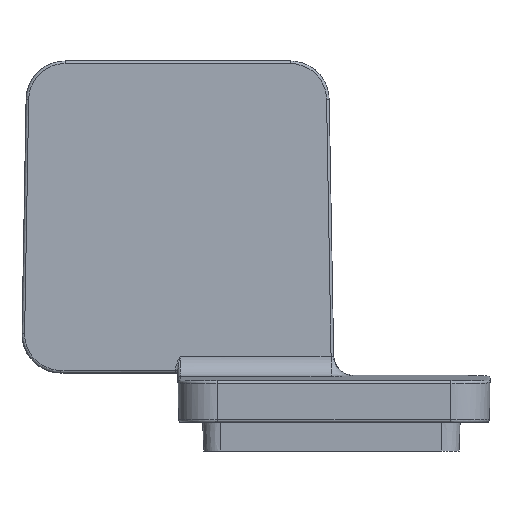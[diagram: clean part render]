
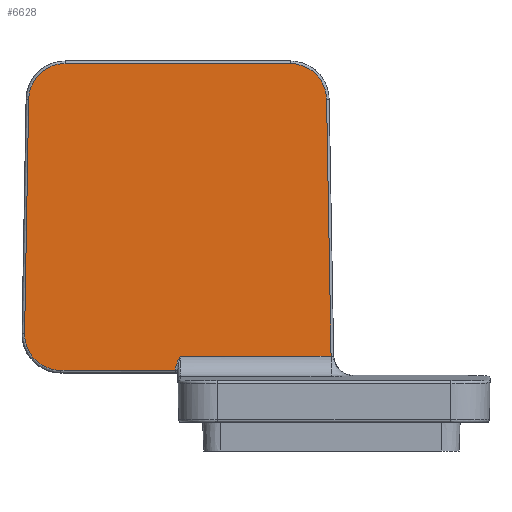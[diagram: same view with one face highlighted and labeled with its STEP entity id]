
A CAD part, front view. The second image highlights one B-rep face of the part: STEP entity #6628.
In plain terms, the highlighted planar face has unit normal (0, -1, 0.018).
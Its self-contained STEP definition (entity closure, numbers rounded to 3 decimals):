
#196=B_SPLINE_CURVE_WITH_KNOTS('',3,(#11234,#11235,#11236,#11237,#11238),
 .UNSPECIFIED.,.F.,.F.,(4,1,4),(0.,0.003,0.006),
 .UNSPECIFIED.);
#258=PLANE('',#8304);
#780=ELLIPSE('',#8305,14.002,14.);
#781=ELLIPSE('',#8306,14.002,14.);
#782=ELLIPSE('',#8307,14.002,14.);
#819=ORIENTED_EDGE('',*,*,#2779,.T.);
#820=ORIENTED_EDGE('',*,*,#2780,.T.);
#821=ORIENTED_EDGE('',*,*,#2771,.T.);
#822=ORIENTED_EDGE('',*,*,#2781,.T.);
#823=ORIENTED_EDGE('',*,*,#2782,.T.);
#824=ORIENTED_EDGE('',*,*,#2783,.T.);
#825=ORIENTED_EDGE('',*,*,#2784,.T.);
#826=ORIENTED_EDGE('',*,*,#2785,.T.);
#827=ORIENTED_EDGE('',*,*,#2786,.T.);
#2771=EDGE_CURVE('',#3751,#3752,#4382,.F.);
#2779=EDGE_CURVE('',#3759,#3760,#4388,.F.);
#2780=EDGE_CURVE('',#3760,#3751,#196,.T.);
#2781=EDGE_CURVE('',#3752,#3761,#4389,.F.);
#2782=EDGE_CURVE('',#3761,#3762,#780,.F.);
#2783=EDGE_CURVE('',#3762,#3763,#4390,.T.);
#2784=EDGE_CURVE('',#3763,#3764,#781,.F.);
#2785=EDGE_CURVE('',#3764,#3765,#4391,.T.);
#2786=EDGE_CURVE('',#3765,#3759,#782,.F.);
#3751=VERTEX_POINT('',#11214);
#3752=VERTEX_POINT('',#11215);
#3759=VERTEX_POINT('',#11232);
#3760=VERTEX_POINT('',#11233);
#3761=VERTEX_POINT('',#11240);
#3762=VERTEX_POINT('',#11242);
#3763=VERTEX_POINT('',#11244);
#3764=VERTEX_POINT('',#11246);
#3765=VERTEX_POINT('',#11248);
#4382=LINE('',#11213,#4912);
#4388=LINE('',#11231,#4918);
#4389=LINE('',#11239,#4919);
#4390=LINE('',#11243,#4920);
#4391=LINE('',#11247,#4921);
#4912=VECTOR('',#9097,1000.);
#4918=VECTOR('',#9111,1000.);
#4919=VECTOR('',#9112,1000.);
#4920=VECTOR('',#9115,1000.);
#4921=VECTOR('',#9118,1000.);
#5444=EDGE_LOOP('',(#819,#820,#821,#822,#823,#824,#825,#826,#827));
#5956=FACE_BOUND('',#5444,.T.);
#6628=ADVANCED_FACE('',(#5956),#258,.F.);
#8304=AXIS2_PLACEMENT_3D('',#11230,#9109,#9110);
#8305=AXIS2_PLACEMENT_3D('',#11241,#9113,#9114);
#8306=AXIS2_PLACEMENT_3D('',#11245,#9116,#9117);
#8307=AXIS2_PLACEMENT_3D('',#11249,#9119,#9120);
#9097=DIRECTION('',(-1.,0.,0.));
#9109=DIRECTION('',(0.,1.,-0.017));
#9110=DIRECTION('',(0.,0.017,1.));
#9111=DIRECTION('',(-1.,0.,0.));
#9112=DIRECTION('',(0.017,-0.017,-1.));
#9113=DIRECTION('',(0.,1.,-0.017));
#9114=DIRECTION('',(0.,0.017,1.));
#9115=DIRECTION('',(-1.,0.,0.));
#9116=DIRECTION('',(0.,1.,-0.017));
#9117=DIRECTION('',(0.,0.017,1.));
#9118=DIRECTION('',(-0.017,-0.017,-1.));
#9119=DIRECTION('',(0.,1.,-0.017));
#9120=DIRECTION('',(0.,-0.017,-1.));
#11213=CARTESIAN_POINT('',(151.,42.019,25.503));
#11214=CARTESIAN_POINT('',(-59.151,42.019,25.503));
#11215=CARTESIAN_POINT('',(-1.129,42.019,25.503));
#11230=CARTESIAN_POINT('',(151.,44.,139.));
#11231=CARTESIAN_POINT('',(151.,41.923,20.017));
#11232=CARTESIAN_POINT('',(-105.,41.923,20.017));
#11233=CARTESIAN_POINT('',(-61.053,41.923,20.017));
#11234=CARTESIAN_POINT('',(-61.053,41.923,20.017));
#11235=CARTESIAN_POINT('',(-61.031,41.94,21.001));
#11236=CARTESIAN_POINT('',(-60.488,41.973,22.892));
#11237=CARTESIAN_POINT('',(-59.6,42.004,24.628));
#11238=CARTESIAN_POINT('',(-59.151,42.019,25.503));
#11239=CARTESIAN_POINT('',(-3.063,43.953,136.312));
#11240=CARTESIAN_POINT('',(-2.853,43.743,124.262));
#11241=CARTESIAN_POINT('',(-16.851,43.738,124.017));
#11242=CARTESIAN_POINT('',(-16.851,43.983,138.017));
#11243=CARTESIAN_POINT('',(-103.431,43.983,138.017));
#11244=CARTESIAN_POINT('',(-103.431,43.983,138.017));
#11245=CARTESIAN_POINT('',(-103.431,43.738,124.017));
#11246=CARTESIAN_POINT('',(-117.429,43.743,124.261));
#11247=CARTESIAN_POINT('',(-118.998,42.171,34.244));
#11248=CARTESIAN_POINT('',(-118.998,42.172,34.261));
#11249=CARTESIAN_POINT('',(-105.,42.168,34.017));
